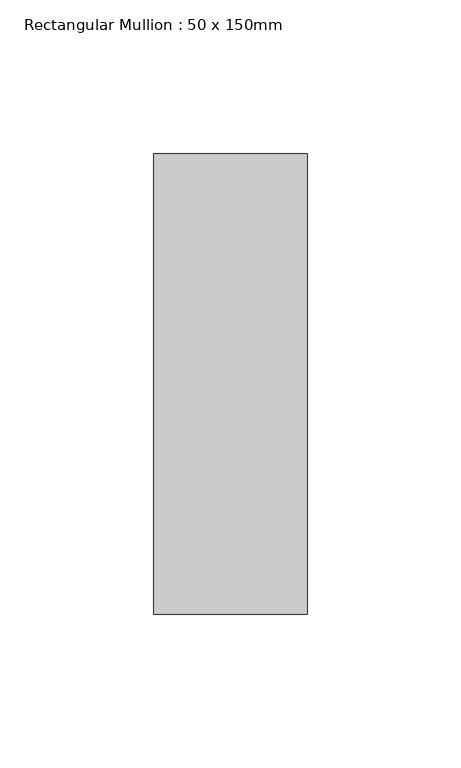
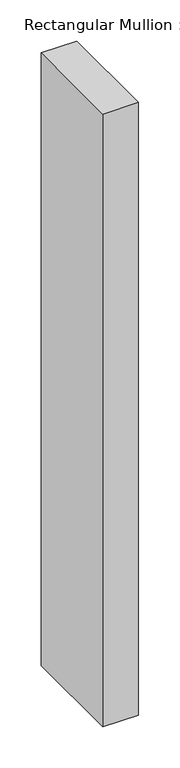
"""IFC4 building model written with IfcOpenShell, lengths in millimetres: member geometry, Rectangular Mullion : 50 x 150mm."""

import ifcopenshell
import ifcopenshell.guid

model = None  # the IFC model being written
_history = None  # IfcOwnerHistory: only IFC2X3 demands one
_inside = {}  # id of a spatial element -> (the spatial element, [elements in it])
_under = {}  # id of a project, library or spatial element -> (it, [spatial elements below it])
_declared = {}  # id of a project -> (the project, [libraries it declares])
_typed = {}  # id of a type object -> (the type object, [elements of that type])
_made_of = {}  # id of a material, layer set ... -> (it, [elements and type objects made of it])


def new_model(schema):
    """Start an empty IFC model of exactly this schema.

    Asked for "IFC4X3", IfcOpenShell would pick the latest addendum, in which some entities
    have other attributes; the version numbers below select the first issue.
    IFC2X3 requires an IfcOwnerHistory on every rooted entity: one is made here for all.
    """
    global model, _history
    if schema == "IFC4X3":
        model = ifcopenshell.file(schema_version=(4, 3, 0, 0))
    else:
        model = ifcopenshell.file(schema=schema)
    _inside.clear()
    _under.clear()
    _declared.clear()
    _typed.clear()
    _made_of.clear()
    _history = None
    if model.schema == "IFC2X3":
        org = make("IfcOrganization", Name="unknown")
        user = make(
            "IfcPersonAndOrganization",
            ThePerson=make("IfcPerson", FamilyName="unknown"),
            TheOrganization=org,
        )
        app = make(
            "IfcApplication",
            ApplicationDeveloper=org,
            Version="unknown",
            ApplicationFullName="unknown",
            ApplicationIdentifier="unknown",
        )
        _history = make(
            "IfcOwnerHistory",
            OwningUser=user,
            OwningApplication=app,
            ChangeAction="ADDED",
            CreationDate=0,
        )
    return model


def make(cls, **values):
    """One entity of the class cls with the attributes given. An attribute that is None is left unset."""
    return model.create_entity(
        cls, **{name: value for name, value in values.items() if value is not None}
    )


def rooted(cls, **values):
    """An entity with a GlobalId (a new one), such as an element, a storey or a relation."""
    return make(cls, GlobalId=ifcopenshell.guid.new(), OwnerHistory=_history, **values)


def si_unit(unit_type, name, prefix=None):
    """IfcSIUnit, for example si_unit("LENGTHUNIT", "METRE", prefix="MILLI")."""
    return make("IfcSIUnit", UnitType=unit_type, Prefix=prefix, Name=name)


def assignment(units):
    """IfcUnitAssignment: the units of a project."""
    return None if units is None else make("IfcUnitAssignment", Units=units)


def point(xyz):
    """IfcCartesianPoint."""
    return None if xyz is None else make("IfcCartesianPoint", Coordinates=xyz)


def direction(xyz):
    """IfcDirection."""
    return None if xyz is None else make("IfcDirection", DirectionRatios=xyz)


def frame(location, z_axis=None, x_axis=None):
    """IfcAxis2Placement3D, a coordinate frame: its origin and axes. An axis left out is left unset."""
    return make(
        "IfcAxis2Placement3D",
        Location=point(location),
        Axis=direction(z_axis),
        RefDirection=direction(x_axis),
    )


def origin():
    """The frame at (0, 0, 0) with its axes left unset."""
    return frame((0.0, 0.0, 0.0))


def place(relative_to, where):
    """IfcLocalPlacement: puts the frame where relative to a parent placement (None: the world)."""
    return make(
        "IfcLocalPlacement", PlacementRelTo=relative_to, RelativePlacement=where
    )


def context(
    kind, dimensions, precision=None, world=None, true_north=None, identifier=None
):
    """IfcGeometricRepresentationContext, for example the 3D "Model" context."""
    return make(
        "IfcGeometricRepresentationContext",
        ContextIdentifier=identifier,
        ContextType=kind,
        CoordinateSpaceDimension=dimensions,
        Precision=precision,
        WorldCoordinateSystem=world,
        TrueNorth=true_north,
    )


def project(units=None, contexts=None):
    """IfcProject with its units and contexts."""
    return rooted(
        "IfcProject",
        Name="project",
        RepresentationContexts=contexts,
        UnitsInContext=assignment(units),
    )


def spatial(cls, under=None, at=None, **own):
    """A site, building, storey or space (cls), placed at a placement, below another one or the project."""
    s = rooted(cls, ObjectPlacement=at, **own)
    if under is not None:
        _under.setdefault(under.id(), (under, []))[1].append(s)
    return s


def polyline(points):
    """IfcPolyline through the points."""
    return make("IfcPolyline", Points=[point(p) for p in points])


def outline(outer, holes=None, kind="AREA"):
    """IfcArbitraryClosedProfileDef: a profile drawn as a closed curve; with holes, ...WithVoids."""
    if holes is None:
        return make("IfcArbitraryClosedProfileDef", ProfileType=kind, OuterCurve=outer)
    return make(
        "IfcArbitraryProfileDefWithVoids",
        ProfileType=kind,
        OuterCurve=outer,
        InnerCurves=holes,
    )


def extrude(swept, where, along, depth):
    """IfcExtrudedAreaSolid: the profile swept, set in the frame where, extruded along a direction by depth."""
    return make(
        "IfcExtrudedAreaSolid",
        SweptArea=swept,
        Position=where,
        ExtrudedDirection=direction(along),
        Depth=depth,
    )


def shape(context_of_items, identifier, shape_type, items):
    """IfcShapeRepresentation: the items that make up one representation, for example the "Body"."""
    return make(
        "IfcShapeRepresentation",
        ContextOfItems=context_of_items,
        RepresentationIdentifier=identifier,
        RepresentationType=shape_type,
        Items=items,
    )


def source(mapping_origin, context_of_items, identifier, shape_type, items):
    """IfcRepresentationMap: a shape defined once, which mapped items show again and again."""
    return make(
        "IfcRepresentationMap",
        MappingOrigin=mapping_origin,
        MappedRepresentation=shape(context_of_items, identifier, shape_type, items),
    )


def transform(
    local_origin,
    x_axis=None,
    y_axis=None,
    z_axis=None,
    scale=None,
    scale2=None,
    scale3=None,
    uniform=True,
):
    """IfcCartesianTransformationOperator3D, or its non-uniform kind. x_axis, y_axis, z_axis: its Axis1, 2, 3."""
    if uniform:
        return make(
            "IfcCartesianTransformationOperator3D",
            Axis1=direction(x_axis),
            Axis2=direction(y_axis),
            LocalOrigin=point(local_origin),
            Scale=scale,
            Axis3=direction(z_axis),
        )
    return make(
        "IfcCartesianTransformationOperator3DnonUniform",
        Axis1=direction(x_axis),
        Axis2=direction(y_axis),
        LocalOrigin=point(local_origin),
        Scale=scale,
        Axis3=direction(z_axis),
        Scale2=scale2,
        Scale3=scale3,
    )


def mapped(mapping_source, mapping_target):
    """IfcMappedItem: shows the shape of a source again, moved by a transform."""
    return make(
        "IfcMappedItem", MappingSource=mapping_source, MappingTarget=mapping_target
    )


def made_of(thing, what):
    """Note that an element or type object is made of a material, layer set ...; save() writes the relation."""
    if what is not None:
        _made_of.setdefault(what.id(), (what, []))[1].append(thing)
    return thing


def element(
    cls,
    number,
    at=None,
    inside=None,
    cuts=None,
    type_object=None,
    material=None,
    context=None,
    identifier="Body",
    shape_type=None,
    held_by="IfcProductDefinitionShape",
    body=None,
    shapes=None,
    **own,
):
    """One element of the class cls, such as IfcWall. Its Tag is "e" and its number.

    at: its placement. inside: the storey or other place that contains it. cuts: it is an
    opening in that element (IfcRelVoidsElement). A single representation is given by context,
    identifier, shape_type and body (its items); several are given by shapes. held_by: the class
    of the entity that holds the representations. save() writes the other relations.
    """
    e = rooted(cls, Tag="e%d" % number, ObjectPlacement=at, **own)
    if body is not None:
        shapes = [shape(context, identifier, shape_type, body)]
    if shapes is not None:
        e.Representation = make(held_by, Representations=shapes)
    if inside is not None:
        _inside.setdefault(inside.id(), (inside, []))[1].append(e)
    if cuts is not None:
        rooted(
            "IfcRelVoidsElement", RelatingBuildingElement=cuts, RelatedOpeningElement=e
        )
    if type_object is not None:
        _typed.setdefault(type_object.id(), (type_object, []))[1].append(e)
    return made_of(e, material)


def aggregate(whole, parts):
    """IfcRelAggregates: a whole, such as a stair, and the parts it consists of."""
    return rooted("IfcRelAggregates", RelatingObject=whole, RelatedObjects=parts)


def save(model, path):
    """Write the relations noted so far, then the file.

    IfcRelAggregates (storeys below a building ...), IfcRelContainedInSpatialStructure (elements
    in a storey), IfcRelDefinesByType, IfcRelAssociatesMaterial and IfcRelDeclares: one each for
    every whole, place, type object, material and project.
    """
    for whole, parts in _under.values():
        aggregate(whole, parts)
    for where, things in _inside.values():
        rooted(
            "IfcRelContainedInSpatialStructure",
            RelatedElements=things,
            RelatingStructure=where,
        )
    for kind, things in _typed.values():
        rooted("IfcRelDefinesByType", RelatedObjects=things, RelatingType=kind)
    for what, things in _made_of.values():
        rooted("IfcRelAssociatesMaterial", RelatedObjects=things, RelatingMaterial=what)
    for by, libraries in _declared.values():
        rooted("IfcRelDeclares", RelatingContext=by, RelatedDefinitions=libraries)
    model.write(path)


def rectangular_mullion_50_x_150mm_9aace082(model_context):
    return source(origin(), model_context, "Body", "SweptSolid", [
        extrude(outline(polyline([(25.0, 75.0), (25.0, -75.0), (-25.0, -75.0), (-25.0, 75.0), (25.0, 75.0)])), frame((0.0, 0.0, -909.5604964), z_axis=(0.0, 0.0, 1.0), x_axis=(1.0, 0.0, 0.0)), (0.0, 0.0, 1.0), 909.5604964),
    ])


if __name__ == "__main__":
    model = new_model("IFC4")
    model_context = context("Model", 3, world=origin())
    ifc_project = project(units=[si_unit("LENGTHUNIT", "METRE", prefix="MILLI")], contexts=[model_context])
    site = spatial("IfcSite", under=ifc_project)
    building = spatial("IfcBuilding", under=site)
    placement = place(None, origin())
    rectangular_mullion_50_x_150mm_shape = rectangular_mullion_50_x_150mm_9aace082(model_context)
    element("IfcMember", 1, ObjectType="Rectangular Mullion : 50 x 150mm", at=placement, inside=building, context=model_context, shape_type="MappedRepresentation", body=[
        mapped(rectangular_mullion_50_x_150mm_shape, transform((0.0, 0.0, 0.0), x_axis=(1.0, 0.0, 0.0), y_axis=(0.0, 1.0, 0.0), z_axis=(0.0, 0.0, 1.0))),
    ])
    save(model, "model.ifc")
